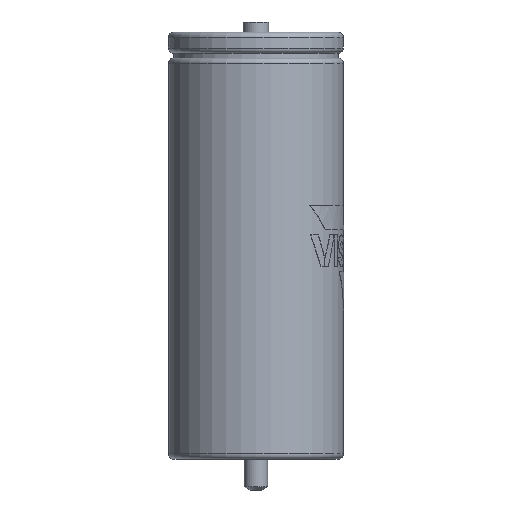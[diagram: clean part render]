
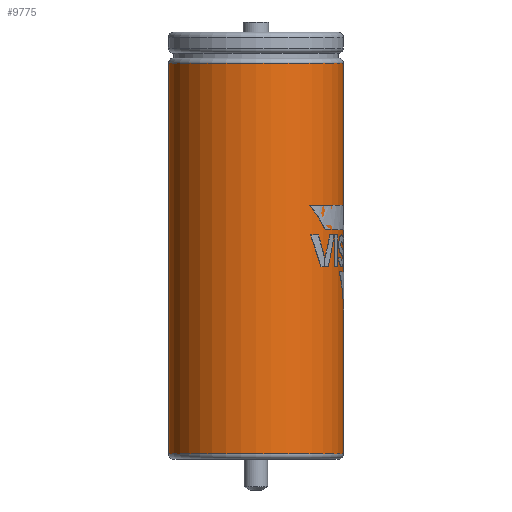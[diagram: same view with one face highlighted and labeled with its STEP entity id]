
A CAD part, left-side view. The second image highlights one B-rep face of the part: STEP entity #9775.
In plain terms, the highlighted cylindrical face has radius 44.7 mm (diameter 89.4 mm), a full revolution.
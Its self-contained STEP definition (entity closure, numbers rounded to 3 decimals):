
#9708 = TOROIDAL_SURFACE('',#9709,42.1,2.6);
#9709 = AXIS2_PLACEMENT_3D('',#9710,#9711,#9712);
#9710 = CARTESIAN_POINT('',(0.,0.,-212.9));
#9711 = DIRECTION('',(0.,0.,1.));
#9712 = DIRECTION('',(1.,0.,0.));
#9725 = VERTEX_POINT('',#9726);
#9726 = CARTESIAN_POINT('',(44.7,0.,-212.9));
#9748 = EDGE_CURVE('',#9725,#9725,#9749,.T.);
#9749 = SURFACE_CURVE('',#9750,(#9755,#9762),.PCURVE_S1.);
#9750 = CIRCLE('',#9751,44.7);
#9751 = AXIS2_PLACEMENT_3D('',#9752,#9753,#9754);
#9752 = CARTESIAN_POINT('',(0.,0.,-212.9));
#9753 = DIRECTION('',(-0.,0.,1.));
#9754 = DIRECTION('',(1.,0.,0.));
#9755 = PCURVE('',#9708,#9756);
#9756 = DEFINITIONAL_REPRESENTATION('',(#9757),#9761);
#9757 = LINE('',#9758,#9759);
#9758 = CARTESIAN_POINT('',(0.,6.283));
#9759 = VECTOR('',#9760,1.);
#9760 = DIRECTION('',(1.,0.));
#9761 = ( GEOMETRIC_REPRESENTATION_CONTEXT(2) 
PARAMETRIC_REPRESENTATION_CONTEXT() REPRESENTATION_CONTEXT('2D SPACE',''
  ) );
#9762 = PCURVE('',#9763,#9768);
#9763 = CYLINDRICAL_SURFACE('',#9764,44.7);
#9764 = AXIS2_PLACEMENT_3D('',#9765,#9766,#9767);
#9765 = CARTESIAN_POINT('',(0.,0.,-212.9));
#9766 = DIRECTION('',(0.,0.,1.));
#9767 = DIRECTION('',(1.,0.,0.));
#9768 = DEFINITIONAL_REPRESENTATION('',(#9769),#9773);
#9769 = LINE('',#9770,#9771);
#9770 = CARTESIAN_POINT('',(0.,0.));
#9771 = VECTOR('',#9772,1.);
#9772 = DIRECTION('',(1.,0.));
#9773 = ( GEOMETRIC_REPRESENTATION_CONTEXT(2) 
PARAMETRIC_REPRESENTATION_CONTEXT() REPRESENTATION_CONTEXT('2D SPACE',''
  ) );
#9775 = ADVANCED_FACE('',(#9776),#9763,.T.);
#9776 = FACE_BOUND('',#9777,.T.);
#9777 = EDGE_LOOP('',(#9778,#9779,#9802,#9829));
#9778 = ORIENTED_EDGE('',*,*,#9748,.T.);
#9779 = ORIENTED_EDGE('',*,*,#9780,.T.);
#9780 = EDGE_CURVE('',#9725,#9781,#9783,.T.);
#9781 = VERTEX_POINT('',#9782);
#9782 = CARTESIAN_POINT('',(44.7,0.,-13.2));
#9783 = SEAM_CURVE('',#9784,(#9788,#9795),.PCURVE_S1.);
#9784 = LINE('',#9785,#9786);
#9785 = CARTESIAN_POINT('',(44.7,0.,-212.9));
#9786 = VECTOR('',#9787,1.);
#9787 = DIRECTION('',(0.,0.,1.));
#9788 = PCURVE('',#9763,#9789);
#9789 = DEFINITIONAL_REPRESENTATION('',(#9790),#9794);
#9790 = LINE('',#9791,#9792);
#9791 = CARTESIAN_POINT('',(0.,0.));
#9792 = VECTOR('',#9793,1.);
#9793 = DIRECTION('',(0.,1.));
#9794 = ( GEOMETRIC_REPRESENTATION_CONTEXT(2) 
PARAMETRIC_REPRESENTATION_CONTEXT() REPRESENTATION_CONTEXT('2D SPACE',''
  ) );
#9795 = PCURVE('',#9763,#9796);
#9796 = DEFINITIONAL_REPRESENTATION('',(#9797),#9801);
#9797 = LINE('',#9798,#9799);
#9798 = CARTESIAN_POINT('',(6.283,0.));
#9799 = VECTOR('',#9800,1.);
#9800 = DIRECTION('',(0.,1.));
#9801 = ( GEOMETRIC_REPRESENTATION_CONTEXT(2) 
PARAMETRIC_REPRESENTATION_CONTEXT() REPRESENTATION_CONTEXT('2D SPACE',''
  ) );
#9802 = ORIENTED_EDGE('',*,*,#9803,.F.);
#9803 = EDGE_CURVE('',#9781,#9781,#9804,.T.);
#9804 = SURFACE_CURVE('',#9805,(#9810,#9817),.PCURVE_S1.);
#9805 = CIRCLE('',#9806,44.7);
#9806 = AXIS2_PLACEMENT_3D('',#9807,#9808,#9809);
#9807 = CARTESIAN_POINT('',(0.,0.,-13.2));
#9808 = DIRECTION('',(-0.,0.,1.));
#9809 = DIRECTION('',(1.,0.,0.));
#9810 = PCURVE('',#9763,#9811);
#9811 = DEFINITIONAL_REPRESENTATION('',(#9812),#9816);
#9812 = LINE('',#9813,#9814);
#9813 = CARTESIAN_POINT('',(0.,199.7));
#9814 = VECTOR('',#9815,1.);
#9815 = DIRECTION('',(1.,0.));
#9816 = ( GEOMETRIC_REPRESENTATION_CONTEXT(2) 
PARAMETRIC_REPRESENTATION_CONTEXT() REPRESENTATION_CONTEXT('2D SPACE',''
  ) );
#9817 = PCURVE('',#9818,#9823);
#9818 = TOROIDAL_SURFACE('',#9819,42.1,2.6);
#9819 = AXIS2_PLACEMENT_3D('',#9820,#9821,#9822);
#9820 = CARTESIAN_POINT('',(0.,0.,-13.2));
#9821 = DIRECTION('',(0.,0.,1.));
#9822 = DIRECTION('',(1.,0.,0.));
#9823 = DEFINITIONAL_REPRESENTATION('',(#9824),#9828);
#9824 = LINE('',#9825,#9826);
#9825 = CARTESIAN_POINT('',(0.,0.));
#9826 = VECTOR('',#9827,1.);
#9827 = DIRECTION('',(1.,0.));
#9828 = ( GEOMETRIC_REPRESENTATION_CONTEXT(2) 
PARAMETRIC_REPRESENTATION_CONTEXT() REPRESENTATION_CONTEXT('2D SPACE',''
  ) );
#9829 = ORIENTED_EDGE('',*,*,#9780,.F.);
